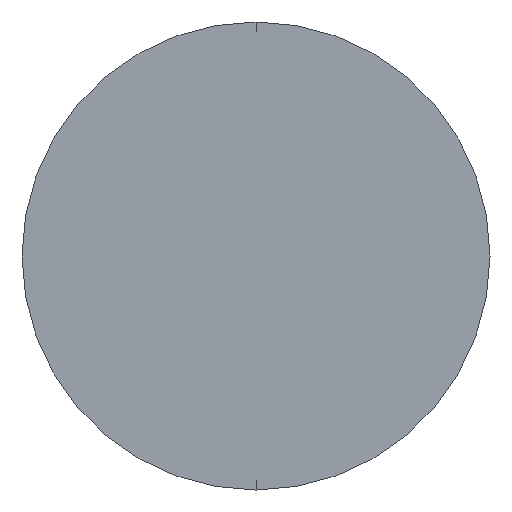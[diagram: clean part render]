
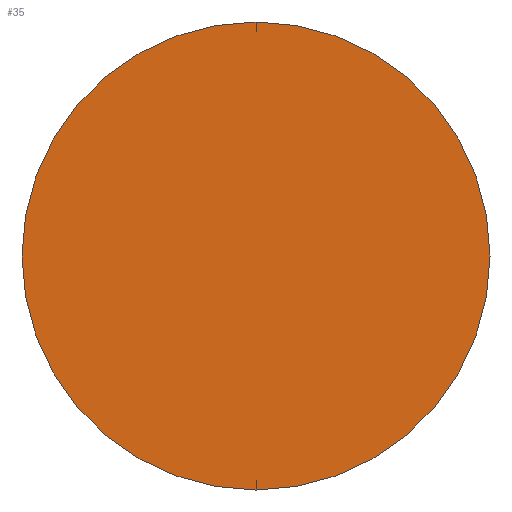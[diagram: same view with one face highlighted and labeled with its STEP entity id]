
A CAD part, left-side view. The second image highlights one B-rep face of the part: STEP entity #35.
In plain terms, the highlighted planar face has unit normal (-1, 0, 0).
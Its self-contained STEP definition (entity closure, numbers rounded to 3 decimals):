
#8 = EDGE_LOOP ( 'NONE', ( #209, #278 ) ) ;
#30 = PLANE ( 'NONE',  #154 ) ;
#35 = ADVANCED_FACE ( 'NONE', ( #198 ), #30, .F. ) ;
#40 = CARTESIAN_POINT ( 'NONE',  ( 0., 0., 0. ) ) ;
#49 = CIRCLE ( 'NONE', #202, 2. ) ;
#52 = DIRECTION ( 'NONE',  ( 0., 0., 1. ) ) ;
#53 = DIRECTION ( 'NONE',  ( 1., 0., 0. ) ) ;
#58 = CIRCLE ( 'NONE', #264, 2. ) ;
#61 = DIRECTION ( 'NONE',  ( 0., 0., 1. ) ) ;
#76 = EDGE_CURVE ( 'NONE', #97, #182, #58, .T. ) ;
#84 = CARTESIAN_POINT ( 'NONE',  ( 0., 0., 2. ) ) ;
#91 = DIRECTION ( 'NONE',  ( 0., 0., -1. ) ) ;
#97 = VERTEX_POINT ( 'NONE', #84 ) ;
#109 = CARTESIAN_POINT ( 'NONE',  ( 0., 0., 0. ) ) ;
#118 = DIRECTION ( 'NONE',  ( -1., 0., 0. ) ) ;
#154 = AXIS2_PLACEMENT_3D ( 'NONE', #109, #53, #91 ) ;
#182 = VERTEX_POINT ( 'NONE', #190 ) ;
#190 = CARTESIAN_POINT ( 'NONE',  ( 0., 0., -2. ) ) ;
#191 = DIRECTION ( 'NONE',  ( -1., 0., 0. ) ) ;
#198 = FACE_OUTER_BOUND ( 'NONE', #8, .T. ) ;
#202 = AXIS2_PLACEMENT_3D ( 'NONE', #40, #191, #61 ) ;
#206 = CARTESIAN_POINT ( 'NONE',  ( 0., 0., 0. ) ) ;
#209 = ORIENTED_EDGE ( 'NONE', *, *, #76, .T. ) ;
#219 = EDGE_CURVE ( 'NONE', #182, #97, #49, .T. ) ;
#264 = AXIS2_PLACEMENT_3D ( 'NONE', #206, #118, #52 ) ;
#278 = ORIENTED_EDGE ( 'NONE', *, *, #219, .T. ) ;
